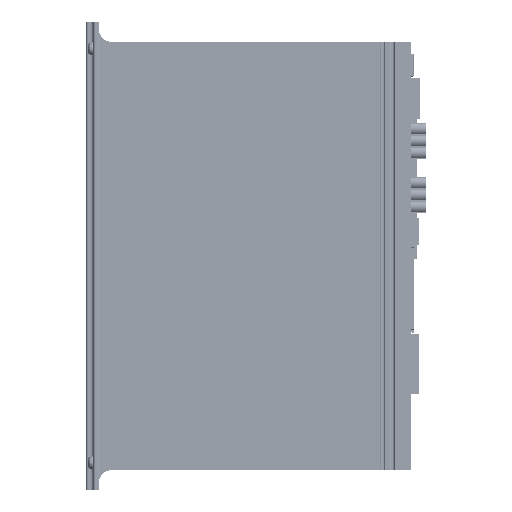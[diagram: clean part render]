
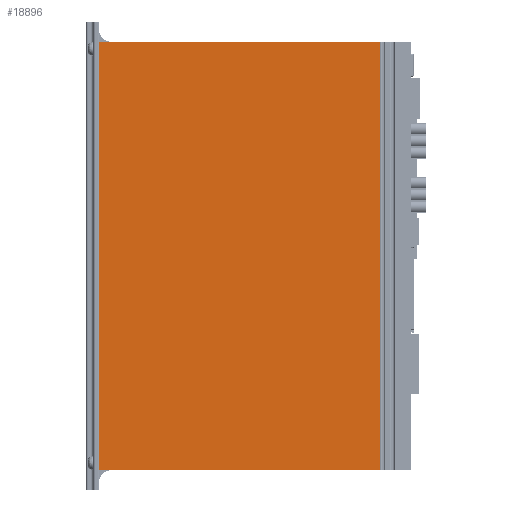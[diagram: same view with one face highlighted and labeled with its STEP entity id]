
A CAD part, front view. The second image highlights one B-rep face of the part: STEP entity #18896.
In plain terms, the highlighted planar face has unit normal (0, -1, 0) as drawn and (-1, 0, 0) by its records, which use the part's own axes.
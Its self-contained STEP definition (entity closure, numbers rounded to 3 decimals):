
#8974=DIRECTION('',(0.,-1.,0.));
#8975=VECTOR('',#8974,179.4);
#8976=CARTESIAN_POINT('',(-23.5,89.7,13.));
#8977=LINE('',#8976,#8975);
#8981=DIRECTION('',(0.,0.,-1.));
#8982=VECTOR('',#8981,118.1);
#8983=CARTESIAN_POINT('',(-23.5,89.7,131.1));
#8984=LINE('',#8983,#8982);
#8988=DIRECTION('',(0.,0.,-1.));
#8989=VECTOR('',#8988,118.1);
#8990=CARTESIAN_POINT('',(-23.5,-89.7,131.1));
#8991=LINE('',#8990,#8989);
#11291=DIRECTION('',(0.,-1.,0.));
#11292=VECTOR('',#11291,179.4);
#11293=CARTESIAN_POINT('',(-23.5,89.7,131.1));
#11294=LINE('',#11293,#11292);
#17221=CARTESIAN_POINT('',(-23.5,-89.7,131.1));
#17223=VERTEX_POINT('',#17221);
#17250=CARTESIAN_POINT('',(-23.5,89.7,131.1));
#17252=VERTEX_POINT('',#17250);
#17733=CARTESIAN_POINT('',(-23.5,89.7,13.));
#17734=CARTESIAN_POINT('',(-23.5,-89.7,13.));
#17735=VERTEX_POINT('',#17733);
#17736=VERTEX_POINT('',#17734);
#18881=CARTESIAN_POINT('',(-23.5,90.,0.));
#18882=DIRECTION('',(-1.,0.,0.));
#18883=DIRECTION('',(0.,-1.,0.));
#18884=AXIS2_PLACEMENT_3D('',#18881,#18882,#18883);
#18885=PLANE('',#18884);
#18887=ORIENTED_EDGE('',*,*,#18886,.F.);
#18889=ORIENTED_EDGE('',*,*,#18888,.F.);
#18891=ORIENTED_EDGE('',*,*,#18890,.T.);
#18893=ORIENTED_EDGE('',*,*,#18892,.T.);
#18894=EDGE_LOOP('',(#18887,#18889,#18891,#18893));
#18895=FACE_OUTER_BOUND('',#18894,.F.);
#18886=EDGE_CURVE('',#17735,#17736,#8977,.T.);
#18888=EDGE_CURVE('',#17252,#17735,#8984,.T.);
#18890=EDGE_CURVE('',#17252,#17223,#11294,.T.);
#18892=EDGE_CURVE('',#17223,#17736,#8991,.T.);
#18896=ADVANCED_FACE('',(#18895),#18885,.T.);
